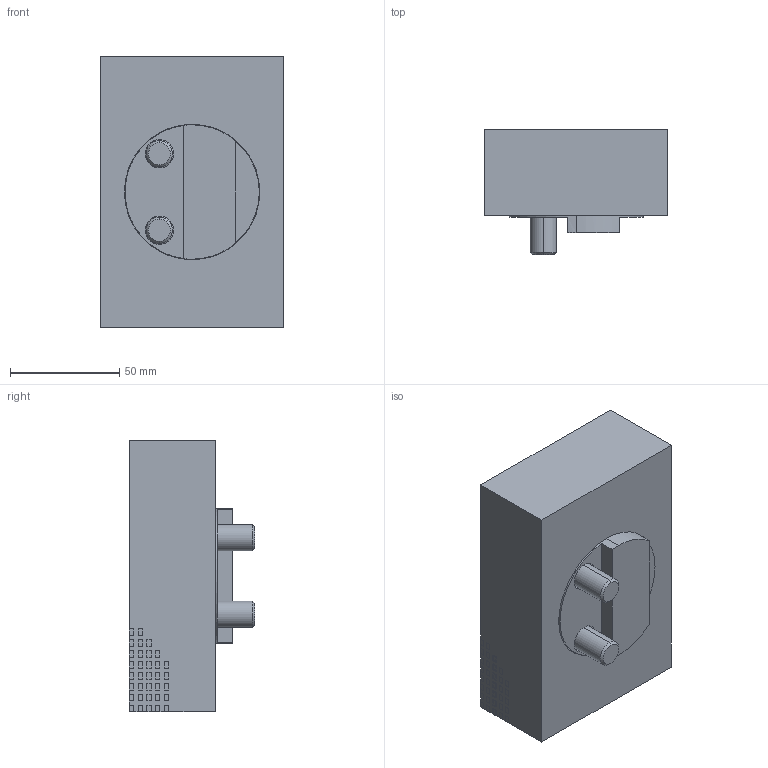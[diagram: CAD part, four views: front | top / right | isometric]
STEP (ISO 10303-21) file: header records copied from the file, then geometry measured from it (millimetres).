
FILE_DESCRIPTION (( 'STEP AP203' ), '1' );
FILE_NAME ('6921684020042.STEP', '2008-12-15T10:21:33', ( ' ' ), ( '' ), 'SwSTEP 2.0', 'SolidWorks 2008', '' );
FILE_SCHEMA (( 'CONFIG_CONTROL_DESIGN' ));
Length unit declared in the file: millimetre
Products named in the file (2): 6921684020042; Teil10^6921684020042_Standard
Assembly tree (1 placements, depth 2):
  6921684020042
    Teil10^6921684020042_Standard
Bounding box: 84.1 x 57.33 x 124.4 mm (x, y, z)
Volume: 422890.8 mm3; surface area: 53715.2 mm2
Topology: 1 solids, 1 shells, 255 faces, 628 edges, 406 vertices
Faces by surface type: plane 208, cylinder 31, torus 8, cone 8
Entity records: 7588 total; most frequent: CARTESIAN_POINT 1289, ORIENTED_EDGE 1248, DIRECTION 1236, EDGE_CURVE 624, LINE 530, VECTOR 530, VERTEX_POINT 406, AXIS2_PLACEMENT_3D 353
